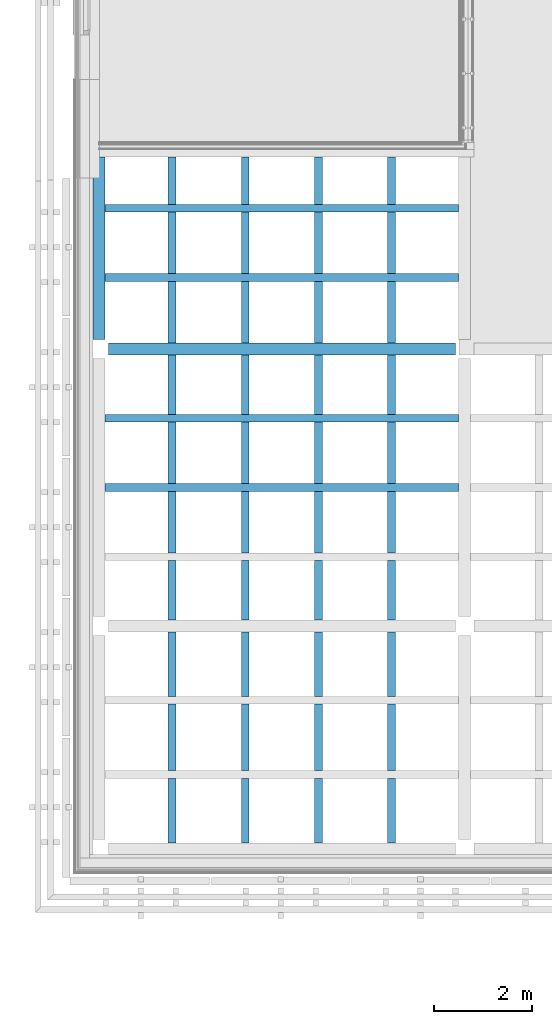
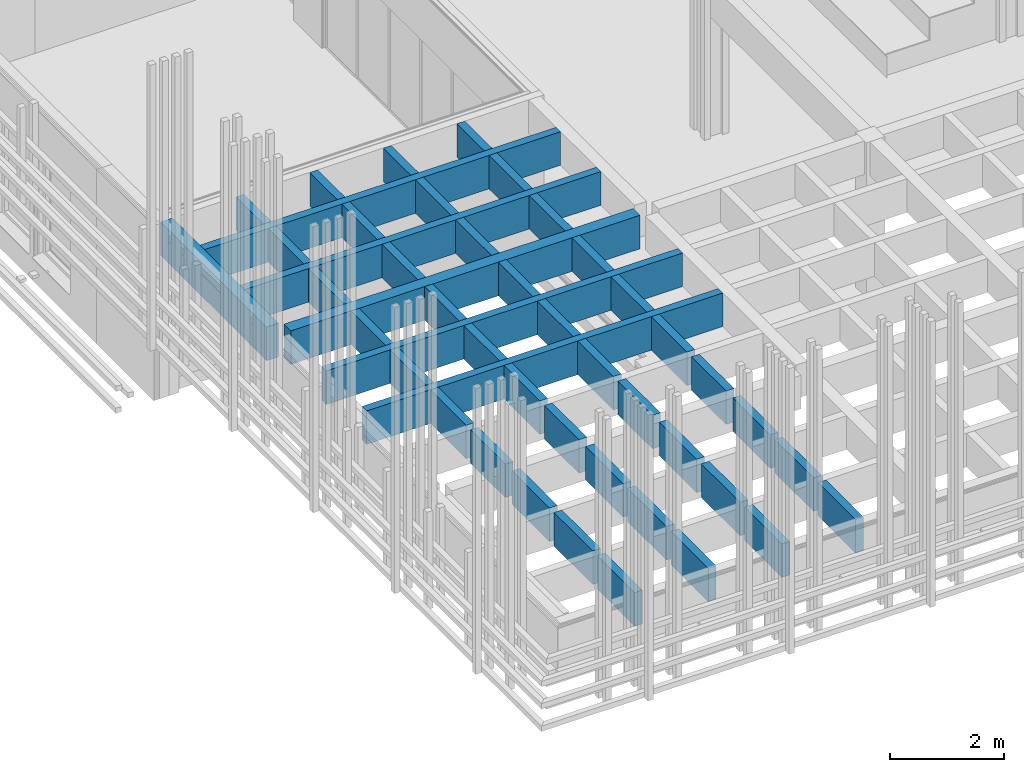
# One storey, part 36 of 139: 10 beams.
"""IFC2X3 building model written with IfcOpenShell, lengths in millimetres."""

from ifc_helpers import new_model, entity, si_unit, converted_unit, derived_unit, money_unit, direction, frame, origin_with_axes, place, context, subcontext, project, spatial, faceted_brep, material, type_object, element, save


model = new_model("IFC2X3")

# Units and contexts
model_context = context("Model", 3, precision=0.01, world=origin_with_axes(), true_north=direction((0.0, 1.0)))
body_context = subcontext(model_context, "Body", "Model", "MODEL_VIEW")
ifc_project = project(units=[si_unit("LENGTHUNIT", "METRE", prefix="MILLI"), si_unit("AREAUNIT", "SQUARE_METRE"), si_unit("VOLUMEUNIT", "CUBIC_METRE"), converted_unit("PLANEANGLEUNIT", "DEGREE", entity("IfcPlaneAngleMeasure", 0.0174532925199), si_unit("PLANEANGLEUNIT", "RADIAN"), dimensions=[0, 0, 0, 0, 0, 0, 0]), money_unit("EUR"), converted_unit("TIMEUNIT", "Year", entity("IfcTimeMeasure", 31556926.0), si_unit("TIMEUNIT", "SECOND"), dimensions=[0, 0, 1, 0, 0, 0, 0]), si_unit("MASSUNIT", "GRAM", prefix="KILO"), si_unit("THERMODYNAMICTEMPERATUREUNIT", "DEGREE_CELSIUS"), si_unit("LUMINOUSINTENSITYUNIT", "LUMEN"), si_unit("ENERGYUNIT", "JOULE", prefix="MEGA"), derived_unit("THERMALCONDUCTANCEUNIT", [(si_unit("POWERUNIT", "WATT"), 1), (si_unit("LENGTHUNIT", "METRE"), -1), (si_unit("THERMODYNAMICTEMPERATUREUNIT", "KELVIN"), -1)]), derived_unit("SPECIFICHEATCAPACITYUNIT", [(si_unit("ENERGYUNIT", "JOULE"), 1), (si_unit("MASSUNIT", "GRAM", prefix="KILO"), -1), (si_unit("THERMODYNAMICTEMPERATUREUNIT", "KELVIN"), -1)]), derived_unit("MASSDENSITYUNIT", [(si_unit("MASSUNIT", "GRAM", prefix="KILO"), 1), (si_unit("VOLUMEUNIT", "CUBIC_METRE"), -1)])], contexts=[model_context])

# Site, building, storey
site_placement = place(None, origin_with_axes())
site = spatial("IfcSite", under=ifc_project, at=site_placement, Name="Kolde pst 67a", CompositionType="ELEMENT")
building_placement = place(site_placement, origin_with_axes())
building = spatial("IfcBuilding", under=site, at=building_placement, Name="Riigigümnaasium", CompositionType="ELEMENT")
storey_placement = place(building_placement, frame((0.0, 0.0, 4600.0), z_axis=(0.0, 0.0, 1.0), x_axis=(1.0, 0.0, 0.0)))
storey = spatial("IfcBuildingStorey", under=building, at=storey_placement, Name="2. korrus", CompositionType="ELEMENT", Elevation=4600.0)

# Beams
ifc_material = material(Name="_KANDETARIND - liimpuit vastavalt EK osale")
beam_type_1 = type_object("IfcBeamType", Name="_KANDETARIND - liimpuit vastavalt EK osale 240 x 720", PredefinedType="BEAM")
beam_1_placement = place(storey_placement, frame((24230.0027384, 38359.9808325, 2960.0), z_axis=(0.0, 0.0, 1.0), x_axis=(-1.0, 1.13121460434e-09, 0.0)))
element("IfcBeam", 1, at=beam_1_placement, inside=storey, type_object=beam_type_1, material=ifc_material, Name="Tala", ObjectType="BEAM", context=body_context, shape_type="Brep", body=[
    faceted_brep([(120.0, 0.0, 360.0), (120.0, 3729.98085964, 360.0), (-120.0, 3729.98085964, 360.0), (-120.0, 0.0, 360.0), (120.0, 0.0, -360.0), (120.0, 3729.98085964, -360.0), (-120.0, 3729.98085964, -360.0), (-120.0, 0.0, -360.0)], [[[0, 1, 2, 3]], [[4, 5, 1, 0]], [[2, 1, 5, 6]], [[3, 2, 6, 7]], [[4, 0, 3, 7]], [[7, 6, 5, 4]]]),
])
beam_2_placement = place(storey_placement, frame((31510.0027795, 34439.9999729, 2960.0), z_axis=(0.0, 0.0, 1.0), x_axis=(0.0, 1.0, 0.0)))
element("IfcBeam", 2, at=beam_2_placement, inside=storey, type_object=beam_type_1, material=ifc_material, Name="Tala", ObjectType="BEAM", context=body_context, shape_type="Brep", body=[
    faceted_brep([(120.0, 0.0, 360.0), (120.0, 7090.00004529, 360.0), (-120.0, 7090.00004529, 360.0), (-120.0, 0.0, 360.0), (120.0, 0.0, -360.0), (120.0, 7090.00004529, -360.0), (-120.0, 7090.00004529, -360.0), (-120.0, 0.0, -360.0)], [[[0, 1, 2, 3]], [[4, 5, 1, 0]], [[2, 1, 5, 6]], [[3, 2, 6, 7]], [[4, 0, 3, 7]], [[7, 6, 5, 4]]]),
])
beam_type_2 = type_object("IfcBeamType", Name="_KANDETARIND - liimpuit vastavalt EK osale 160 x 720", PredefinedType="BEAM")
for number, where, z_axis, x_axis in (
    (3, (31579.955711, 31609.9857523, 2960.0), (0.0, 0.0, 1.0), (0.0, 1.0, 0.0)),
    (4, (31579.962678, 33024.3861836, 2960.0), (0.0, 0.0, 1.0), (0.0, 1.0, 0.0)),
    (5, (31579.962678, 35900.3861836, 2960.0), (0.0, 0.0, 1.0), (0.0, 1.0, 0.0)),
    (6, (31579.962678, 37315.3861836, 2960.0), (0.0, 0.0, 1.0), (0.0, 1.0, 0.0)),
):
    element("IfcBeam", number, at=place(storey_placement, frame(where, z_axis=z_axis, x_axis=x_axis)), inside=storey, type_object=beam_type_2, material=ifc_material, Name="Tala", ObjectType="BEAM", context=body_context, shape_type="Brep", body=[
        faceted_brep([(80.0, 0.0, 360.0), (80.0, 7229.95297686, 360.0), (-80.0, 7229.95297686, 360.0), (-80.0, 0.0, 360.0), (80.0, 0.0, -360.0), (80.0, 7229.95297686, -360.0), (-80.0, 7229.95297686, -360.0), (-80.0, 0.0, -360.0)], [[[0, 1, 2, 3]], [[4, 5, 1, 0]], [[2, 1, 5, 6]], [[3, 2, 6, 7]], [[4, 0, 3, 7]], [[7, 6, 5, 4]]]),
    ])
beam_3_placement = place(storey_placement, frame((25723.9694441, 38359.9808271, 2960.0), z_axis=(0.0, 0.0, 1.0), x_axis=(-1.0, 0.0, 0.0)))
element("IfcBeam", 7, at=beam_3_placement, inside=storey, type_object=beam_type_2, material=ifc_material, Name="Tala", ObjectType="BEAM", context=body_context, shape_type="Brep", body=[
    faceted_brep([(-80.0, 1124.59464347, -360.0), (-80.0, 1124.59464347, 360.0), (-80.0, 2379.59464347, 360.0), (-80.0, 2379.59464347, -360.0), (80.0, 1124.59464347, 360.0), (80.0, 1124.59464347, -360.0), (80.0, 2379.59464347, 360.0), (80.0, 2379.59464347, -360.0)], [[[0, 1, 2, 3]], [[4, 1, 0, 5]], [[1, 4, 6, 2]], [[7, 3, 2, 6]], [[5, 0, 3, 7]], [[4, 5, 7, 6]]]),
    faceted_brep([(80.0, 964.59464347, 360.0), (-80.0, 964.59464347, 360.0), (-80.0, 0.0, 360.0), (80.0, 0.0, 360.0), (-80.0, 964.59464347, -360.0), (80.0, 964.59464347, -360.0), (-80.0, 0.0, -360.0), (80.0, 0.0, -360.0)], [[[0, 1, 2, 3]], [[4, 1, 0, 5]], [[1, 4, 6, 2]], [[6, 7, 3, 2]], [[5, 0, 3, 7]], [[4, 5, 7, 6]]]),
    faceted_brep([(-80.0, 2539.59464347, -360.0), (-80.0, 2539.59464347, 360.0), (-80.0, 3799.98085419, 360.0), (-80.0, 3799.98085419, -360.0), (80.0, 2539.59464347, 360.0), (80.0, 2539.59464347, -360.0), (80.0, 3799.98085419, 360.0), (80.0, 3799.98085419, -360.0)], [[[0, 1, 2, 3]], [[4, 1, 0, 5]], [[1, 4, 6, 2]], [[7, 3, 2, 6]], [[5, 0, 3, 7]], [[4, 5, 7, 6]]]),
    faceted_brep([(-80.0, 4039.98085419, -360.0), (-80.0, 4039.98085419, 360.0), (-80.0, 5255.59464347, 360.0), (-80.0, 5255.59464347, -360.0), (80.0, 4039.98085419, 360.0), (80.0, 4039.98085419, -360.0), (80.0, 5255.59464347, 360.0), (80.0, 5255.59464347, -360.0)], [[[0, 1, 2, 3]], [[4, 1, 0, 5]], [[1, 4, 6, 2]], [[7, 3, 2, 6]], [[5, 0, 3, 7]], [[4, 5, 7, 6]]]),
    faceted_brep([(-80.0, 5415.59464347, -360.0), (-80.0, 5415.59464347, 360.0), (-80.0, 6669.99507478, 360.0), (-80.0, 6669.99507478, -360.0), (80.0, 5415.59464347, 360.0), (80.0, 5415.59464347, -360.0), (80.0, 6669.99507478, 360.0), (80.0, 6669.99507478, -360.0)], [[[0, 1, 2, 3]], [[4, 1, 0, 5]], [[1, 4, 6, 2]], [[7, 3, 2, 6]], [[5, 0, 3, 7]], [[4, 5, 7, 6]]]),
    faceted_brep([(-80.0, 6829.99507478, -360.0), (-80.0, 6829.99507478, 360.0), (-80.0, 8084.99507478, 360.0), (-80.0, 8084.99507478, -360.0), (80.0, 6829.99507478, 360.0), (80.0, 6829.99507478, -360.0), (80.0, 8084.99507478, 360.0), (80.0, 8084.99507478, -360.0)], [[[0, 1, 2, 3]], [[4, 1, 0, 5]], [[1, 4, 6, 2]], [[7, 3, 2, 6]], [[5, 0, 3, 7]], [[4, 5, 7, 6]]]),
    faceted_brep([(-80.0, 8244.99507478, -360.0), (-80.0, 8244.99507478, 360.0), (-80.0, 9459.98112735, 360.0), (-80.0, 9459.98112735, -360.0), (80.0, 8244.99507478, 360.0), (80.0, 8244.99507478, -360.0), (80.0, 9459.98112735, 360.0), (80.0, 9459.98112735, -360.0)], [[[0, 1, 2, 3]], [[4, 1, 0, 5]], [[1, 4, 6, 2]], [[7, 3, 2, 6]], [[5, 0, 3, 7]], [[4, 5, 7, 6]]]),
    faceted_brep([(-80.0, 9699.98112735, -360.0), (-80.0, 9699.98112735, 360.0), (-80.0, 11015.407146, 360.0), (-80.0, 11015.407146, -360.0), (80.0, 9699.98112735, 360.0), (80.0, 9699.98112735, -360.0), (80.0, 11015.407146, 360.0), (80.0, 11015.407146, -360.0)], [[[0, 1, 2, 3]], [[4, 1, 0, 5]], [[1, 4, 6, 2]], [[7, 3, 2, 6]], [[5, 0, 3, 7]], [[4, 5, 7, 6]]]),
    faceted_brep([(-80.0, 11175.407146, -360.0), (-80.0, 11175.407146, 360.0), (-80.0, 12535.407146, 360.0), (-80.0, 12535.407146, -360.0), (80.0, 11175.407146, 360.0), (80.0, 11175.407146, -360.0), (80.0, 12535.407146, 360.0), (80.0, 12535.407146, -360.0)], [[[0, 1, 2, 3]], [[4, 1, 0, 5]], [[1, 4, 6, 2]], [[7, 3, 2, 6]], [[5, 0, 3, 7]], [[4, 5, 7, 6]]]),
    faceted_brep([(-80.0, 12695.407146, -360.0), (-80.0, 12695.407146, 360.0), (-80.0, 14009.9808252, 360.0), (-80.0, 14009.9808252, -360.0), (80.0, 12695.407146, 360.0), (80.0, 12695.407146, -360.0), (80.0, 14009.9808252, 360.0), (80.0, 14009.9808252, -360.0)], [[[0, 1, 2, 3]], [[4, 1, 0, 5]], [[1, 4, 6, 2]], [[3, 2, 6, 7]], [[5, 0, 3, 7]], [[4, 5, 7, 6]]]),
])
beam_4_placement = place(storey_placement, frame((27217.9694574, 38359.9808271, 2960.0), z_axis=(0.0, 0.0, 1.0), x_axis=(-1.0, 0.0, 0.0)))
element("IfcBeam", 8, at=beam_4_placement, inside=storey, type_object=beam_type_2, material=ifc_material, Name="Tala", ObjectType="BEAM", context=body_context, shape_type="Brep", body=[
    faceted_brep([(-80.0, 1124.59464347, -360.0), (-80.0, 1124.59464347, 360.0), (-80.0, 2379.59464347, 360.0), (-80.0, 2379.59464347, -360.0), (80.0, 1124.59464347, 360.0), (80.0, 1124.59464347, -360.0), (80.0, 2379.59464347, 360.0), (80.0, 2379.59464347, -360.0)], [[[0, 1, 2, 3]], [[4, 1, 0, 5]], [[1, 4, 6, 2]], [[7, 3, 2, 6]], [[5, 0, 3, 7]], [[4, 5, 7, 6]]]),
    faceted_brep([(80.0, 964.59464347, 360.0), (-80.0, 964.59464347, 360.0), (-80.0, 0.0, 360.0), (80.0, 0.0, 360.0), (-80.0, 964.59464347, -360.0), (80.0, 964.59464347, -360.0), (-80.0, 0.0, -360.0), (80.0, 0.0, -360.0)], [[[0, 1, 2, 3]], [[4, 1, 0, 5]], [[1, 4, 6, 2]], [[6, 7, 3, 2]], [[5, 0, 3, 7]], [[4, 5, 7, 6]]]),
    faceted_brep([(-80.0, 2539.59464347, -360.0), (-80.0, 2539.59464347, 360.0), (-80.0, 3799.98085419, 360.0), (-80.0, 3799.98085419, -360.0), (80.0, 2539.59464347, 360.0), (80.0, 2539.59464347, -360.0), (80.0, 3799.98085419, 360.0), (80.0, 3799.98085419, -360.0)], [[[0, 1, 2, 3]], [[4, 1, 0, 5]], [[1, 4, 6, 2]], [[7, 3, 2, 6]], [[5, 0, 3, 7]], [[4, 5, 7, 6]]]),
    faceted_brep([(-80.0, 4039.98085419, -360.0), (-80.0, 4039.98085419, 360.0), (-80.0, 5255.59464347, 360.0), (-80.0, 5255.59464347, -360.0), (80.0, 4039.98085419, 360.0), (80.0, 4039.98085419, -360.0), (80.0, 5255.59464347, 360.0), (80.0, 5255.59464347, -360.0)], [[[0, 1, 2, 3]], [[4, 1, 0, 5]], [[1, 4, 6, 2]], [[7, 3, 2, 6]], [[5, 0, 3, 7]], [[4, 5, 7, 6]]]),
    faceted_brep([(-80.0, 5415.59464347, -360.0), (-80.0, 5415.59464347, 360.0), (-80.0, 6669.99507478, 360.0), (-80.0, 6669.99507478, -360.0), (80.0, 5415.59464347, 360.0), (80.0, 5415.59464347, -360.0), (80.0, 6669.99507478, 360.0), (80.0, 6669.99507478, -360.0)], [[[0, 1, 2, 3]], [[4, 1, 0, 5]], [[1, 4, 6, 2]], [[7, 3, 2, 6]], [[5, 0, 3, 7]], [[4, 5, 7, 6]]]),
    faceted_brep([(-80.0, 6829.99507478, -360.0), (-80.0, 6829.99507478, 360.0), (-80.0, 8084.99507478, 360.0), (-80.0, 8084.99507478, -360.0), (80.0, 6829.99507478, 360.0), (80.0, 6829.99507478, -360.0), (80.0, 8084.99507478, 360.0), (80.0, 8084.99507478, -360.0)], [[[0, 1, 2, 3]], [[4, 1, 0, 5]], [[1, 4, 6, 2]], [[7, 3, 2, 6]], [[5, 0, 3, 7]], [[4, 5, 7, 6]]]),
    faceted_brep([(-80.0, 8244.99507478, -360.0), (-80.0, 8244.99507478, 360.0), (-80.0, 9459.98112735, 360.0), (-80.0, 9459.98112735, -360.0), (80.0, 8244.99507478, 360.0), (80.0, 8244.99507478, -360.0), (80.0, 9459.98112735, 360.0), (80.0, 9459.98112735, -360.0)], [[[0, 1, 2, 3]], [[4, 1, 0, 5]], [[1, 4, 6, 2]], [[7, 3, 2, 6]], [[5, 0, 3, 7]], [[4, 5, 7, 6]]]),
    faceted_brep([(-80.0, 9699.98112735, -360.0), (-80.0, 9699.98112735, 360.0), (-80.0, 11015.407146, 360.0), (-80.0, 11015.407146, -360.0), (80.0, 9699.98112735, 360.0), (80.0, 9699.98112735, -360.0), (80.0, 11015.407146, 360.0), (80.0, 11015.407146, -360.0)], [[[0, 1, 2, 3]], [[4, 1, 0, 5]], [[1, 4, 6, 2]], [[7, 3, 2, 6]], [[5, 0, 3, 7]], [[4, 5, 7, 6]]]),
    faceted_brep([(-80.0, 11175.407146, -360.0), (-80.0, 11175.407146, 360.0), (-80.0, 12535.407146, 360.0), (-80.0, 12535.407146, -360.0), (80.0, 11175.407146, 360.0), (80.0, 11175.407146, -360.0), (80.0, 12535.407146, 360.0), (80.0, 12535.407146, -360.0)], [[[0, 1, 2, 3]], [[4, 1, 0, 5]], [[1, 4, 6, 2]], [[7, 3, 2, 6]], [[5, 0, 3, 7]], [[4, 5, 7, 6]]]),
    faceted_brep([(-80.0, 12695.407146, -360.0), (-80.0, 12695.407146, 360.0), (-80.0, 14009.9808252, 360.0), (-80.0, 14009.9808252, -360.0), (80.0, 12695.407146, 360.0), (80.0, 12695.407146, -360.0), (80.0, 14009.9808252, 360.0), (80.0, 14009.9808252, -360.0)], [[[0, 1, 2, 3]], [[4, 1, 0, 5]], [[1, 4, 6, 2]], [[3, 2, 6, 7]], [[5, 0, 3, 7]], [[4, 5, 7, 6]]]),
])
beam_5_placement = place(storey_placement, frame((28711.9694665, 38359.9808271, 2960.0), z_axis=(0.0, 0.0, 1.0), x_axis=(-1.0, 0.0, 0.0)))
element("IfcBeam", 9, at=beam_5_placement, inside=storey, type_object=beam_type_2, material=ifc_material, Name="Tala", ObjectType="BEAM", context=body_context, shape_type="Brep", body=[
    faceted_brep([(-80.0, 1124.59464347, -360.0), (-80.0, 1124.59464347, 360.0), (-80.0, 2379.59464347, 360.0), (-80.0, 2379.59464347, -360.0), (80.0, 1124.59464347, 360.0), (80.0, 1124.59464347, -360.0), (80.0, 2379.59464347, 360.0), (80.0, 2379.59464347, -360.0)], [[[0, 1, 2, 3]], [[4, 1, 0, 5]], [[1, 4, 6, 2]], [[7, 3, 2, 6]], [[5, 0, 3, 7]], [[4, 5, 7, 6]]]),
    faceted_brep([(80.0, 964.59464347, 360.0), (-80.0, 964.59464347, 360.0), (-80.0, 0.0, 360.0), (80.0, 0.0, 360.0), (-80.0, 964.59464347, -360.0), (80.0, 964.59464347, -360.0), (-80.0, 0.0, -360.0), (80.0, 0.0, -360.0)], [[[0, 1, 2, 3]], [[4, 1, 0, 5]], [[1, 4, 6, 2]], [[6, 7, 3, 2]], [[5, 0, 3, 7]], [[4, 5, 7, 6]]]),
    faceted_brep([(-80.0, 2539.59464347, -360.0), (-80.0, 2539.59464347, 360.0), (-80.0, 3799.98085419, 360.0), (-80.0, 3799.98085419, -360.0), (80.0, 2539.59464347, 360.0), (80.0, 2539.59464347, -360.0), (80.0, 3799.98085419, 360.0), (80.0, 3799.98085419, -360.0)], [[[0, 1, 2, 3]], [[4, 1, 0, 5]], [[1, 4, 6, 2]], [[7, 3, 2, 6]], [[5, 0, 3, 7]], [[4, 5, 7, 6]]]),
    faceted_brep([(-80.0, 4039.98085419, -360.0), (-80.0, 4039.98085419, 360.0), (-80.0, 5255.59464347, 360.0), (-80.0, 5255.59464347, -360.0), (80.0, 4039.98085419, 360.0), (80.0, 4039.98085419, -360.0), (80.0, 5255.59464347, 360.0), (80.0, 5255.59464347, -360.0)], [[[0, 1, 2, 3]], [[4, 1, 0, 5]], [[1, 4, 6, 2]], [[7, 3, 2, 6]], [[5, 0, 3, 7]], [[4, 5, 7, 6]]]),
    faceted_brep([(-80.0, 5415.59464347, -360.0), (-80.0, 5415.59464347, 360.0), (-80.0, 6669.99507478, 360.0), (-80.0, 6669.99507478, -360.0), (80.0, 5415.59464347, 360.0), (80.0, 5415.59464347, -360.0), (80.0, 6669.99507478, 360.0), (80.0, 6669.99507478, -360.0)], [[[0, 1, 2, 3]], [[4, 1, 0, 5]], [[1, 4, 6, 2]], [[7, 3, 2, 6]], [[5, 0, 3, 7]], [[4, 5, 7, 6]]]),
    faceted_brep([(-80.0, 6829.99507478, -360.0), (-80.0, 6829.99507478, 360.0), (-80.0, 8084.99507478, 360.0), (-80.0, 8084.99507478, -360.0), (80.0, 6829.99507478, 360.0), (80.0, 6829.99507478, -360.0), (80.0, 8084.99507478, 360.0), (80.0, 8084.99507478, -360.0)], [[[0, 1, 2, 3]], [[4, 1, 0, 5]], [[1, 4, 6, 2]], [[7, 3, 2, 6]], [[5, 0, 3, 7]], [[4, 5, 7, 6]]]),
    faceted_brep([(-80.0, 8244.99507478, -360.0), (-80.0, 8244.99507478, 360.0), (-80.0, 9459.98112735, 360.0), (-80.0, 9459.98112735, -360.0), (80.0, 8244.99507478, 360.0), (80.0, 8244.99507478, -360.0), (80.0, 9459.98112735, 360.0), (80.0, 9459.98112735, -360.0)], [[[0, 1, 2, 3]], [[4, 1, 0, 5]], [[1, 4, 6, 2]], [[7, 3, 2, 6]], [[5, 0, 3, 7]], [[4, 5, 7, 6]]]),
    faceted_brep([(-80.0, 9699.98112735, -360.0), (-80.0, 9699.98112735, 360.0), (-80.0, 11015.407146, 360.0), (-80.0, 11015.407146, -360.0), (80.0, 9699.98112735, 360.0), (80.0, 9699.98112735, -360.0), (80.0, 11015.407146, 360.0), (80.0, 11015.407146, -360.0)], [[[0, 1, 2, 3]], [[4, 1, 0, 5]], [[1, 4, 6, 2]], [[7, 3, 2, 6]], [[5, 0, 3, 7]], [[4, 5, 7, 6]]]),
    faceted_brep([(-80.0, 11175.407146, -360.0), (-80.0, 11175.407146, 360.0), (-80.0, 12535.407146, 360.0), (-80.0, 12535.407146, -360.0), (80.0, 11175.407146, 360.0), (80.0, 11175.407146, -360.0), (80.0, 12535.407146, 360.0), (80.0, 12535.407146, -360.0)], [[[0, 1, 2, 3]], [[4, 1, 0, 5]], [[1, 4, 6, 2]], [[7, 3, 2, 6]], [[5, 0, 3, 7]], [[4, 5, 7, 6]]]),
    faceted_brep([(-80.0, 12695.407146, -360.0), (-80.0, 12695.407146, 360.0), (-80.0, 14009.9808252, 360.0), (-80.0, 14009.9808252, -360.0), (80.0, 12695.407146, 360.0), (80.0, 12695.407146, -360.0), (80.0, 14009.9808252, 360.0), (80.0, 14009.9808252, -360.0)], [[[0, 1, 2, 3]], [[4, 1, 0, 5]], [[1, 4, 6, 2]], [[3, 2, 6, 7]], [[5, 0, 3, 7]], [[4, 5, 7, 6]]]),
])
beam_6_placement = place(storey_placement, frame((30205.9694755, 38359.9808271, 2960.0), z_axis=(0.0, 0.0, 1.0), x_axis=(-1.0, 0.0, 0.0)))
element("IfcBeam", 10, at=beam_6_placement, inside=storey, type_object=beam_type_2, material=ifc_material, Name="Tala", ObjectType="BEAM", context=body_context, shape_type="Brep", body=[
    faceted_brep([(-80.0, 1124.59464347, -360.0), (-80.0, 1124.59464347, 360.0), (-80.0, 2379.59464347, 360.0), (-80.0, 2379.59464347, -360.0), (80.0, 1124.59464347, 360.0), (80.0, 1124.59464347, -360.0), (80.0, 2379.59464347, 360.0), (80.0, 2379.59464347, -360.0)], [[[0, 1, 2, 3]], [[4, 1, 0, 5]], [[1, 4, 6, 2]], [[7, 3, 2, 6]], [[5, 0, 3, 7]], [[4, 5, 7, 6]]]),
    faceted_brep([(80.0, 964.59464347, 360.0), (-80.0, 964.59464347, 360.0), (-80.0, 0.0, 360.0), (80.0, 0.0, 360.0), (-80.0, 964.59464347, -360.0), (80.0, 964.59464347, -360.0), (-80.0, 0.0, -360.0), (80.0, 0.0, -360.0)], [[[0, 1, 2, 3]], [[4, 1, 0, 5]], [[1, 4, 6, 2]], [[6, 7, 3, 2]], [[5, 0, 3, 7]], [[4, 5, 7, 6]]]),
    faceted_brep([(-80.0, 2539.59464347, -360.0), (-80.0, 2539.59464347, 360.0), (-80.0, 3799.98085419, 360.0), (-80.0, 3799.98085419, -360.0), (80.0, 2539.59464347, 360.0), (80.0, 2539.59464347, -360.0), (80.0, 3799.98085419, 360.0), (80.0, 3799.98085419, -360.0)], [[[0, 1, 2, 3]], [[4, 1, 0, 5]], [[1, 4, 6, 2]], [[7, 3, 2, 6]], [[5, 0, 3, 7]], [[4, 5, 7, 6]]]),
    faceted_brep([(-80.0, 4039.98085419, -360.0), (-80.0, 4039.98085419, 360.0), (-80.0, 5255.59464347, 360.0), (-80.0, 5255.59464347, -360.0), (80.0, 4039.98085419, 360.0), (80.0, 4039.98085419, -360.0), (80.0, 5255.59464347, 360.0), (80.0, 5255.59464347, -360.0)], [[[0, 1, 2, 3]], [[4, 1, 0, 5]], [[1, 4, 6, 2]], [[7, 3, 2, 6]], [[5, 0, 3, 7]], [[4, 5, 7, 6]]]),
    faceted_brep([(-80.0, 5415.59464347, -360.0), (-80.0, 5415.59464347, 360.0), (-80.0, 6669.99507478, 360.0), (-80.0, 6669.99507478, -360.0), (80.0, 5415.59464347, 360.0), (80.0, 5415.59464347, -360.0), (80.0, 6669.99507478, 360.0), (80.0, 6669.99507478, -360.0)], [[[0, 1, 2, 3]], [[4, 1, 0, 5]], [[1, 4, 6, 2]], [[7, 3, 2, 6]], [[5, 0, 3, 7]], [[4, 5, 7, 6]]]),
    faceted_brep([(-80.0, 6829.99507478, -360.0), (-80.0, 6829.99507478, 360.0), (-80.0, 8084.99507478, 360.0), (-80.0, 8084.99507478, -360.0), (80.0, 6829.99507478, 360.0), (80.0, 6829.99507478, -360.0), (80.0, 8084.99507478, 360.0), (80.0, 8084.99507478, -360.0)], [[[0, 1, 2, 3]], [[4, 1, 0, 5]], [[1, 4, 6, 2]], [[7, 3, 2, 6]], [[5, 0, 3, 7]], [[4, 5, 7, 6]]]),
    faceted_brep([(-80.0, 8244.99507478, -360.0), (-80.0, 8244.99507478, 360.0), (-80.0, 9459.98112735, 360.0), (-80.0, 9459.98112735, -360.0), (80.0, 8244.99507478, 360.0), (80.0, 8244.99507478, -360.0), (80.0, 9459.98112735, 360.0), (80.0, 9459.98112735, -360.0)], [[[0, 1, 2, 3]], [[4, 1, 0, 5]], [[1, 4, 6, 2]], [[7, 3, 2, 6]], [[5, 0, 3, 7]], [[4, 5, 7, 6]]]),
    faceted_brep([(-80.0, 9699.98112735, -360.0), (-80.0, 9699.98112735, 360.0), (-80.0, 11015.407146, 360.0), (-80.0, 11015.407146, -360.0), (80.0, 9699.98112735, 360.0), (80.0, 9699.98112735, -360.0), (80.0, 11015.407146, 360.0), (80.0, 11015.407146, -360.0)], [[[0, 1, 2, 3]], [[4, 1, 0, 5]], [[1, 4, 6, 2]], [[7, 3, 2, 6]], [[5, 0, 3, 7]], [[4, 5, 7, 6]]]),
    faceted_brep([(-80.0, 11175.407146, -360.0), (-80.0, 11175.407146, 360.0), (-80.0, 12535.407146, 360.0), (-80.0, 12535.407146, -360.0), (80.0, 11175.407146, 360.0), (80.0, 11175.407146, -360.0), (80.0, 12535.407146, 360.0), (80.0, 12535.407146, -360.0)], [[[0, 1, 2, 3]], [[4, 1, 0, 5]], [[1, 4, 6, 2]], [[7, 3, 2, 6]], [[5, 0, 3, 7]], [[4, 5, 7, 6]]]),
    faceted_brep([(-80.0, 12695.407146, -360.0), (-80.0, 12695.407146, 360.0), (-80.0, 14009.9808252, 360.0), (-80.0, 14009.9808252, -360.0), (80.0, 12695.407146, 360.0), (80.0, 12695.407146, -360.0), (80.0, 14009.9808252, 360.0), (80.0, 14009.9808252, -360.0)], [[[0, 1, 2, 3]], [[4, 1, 0, 5]], [[1, 4, 6, 2]], [[3, 2, 6, 7]], [[5, 0, 3, 7]], [[4, 5, 7, 6]]]),
])

save(model, "model.ifc")
